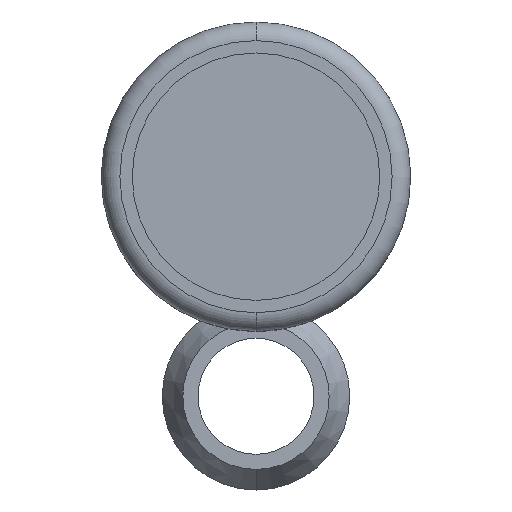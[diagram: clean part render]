
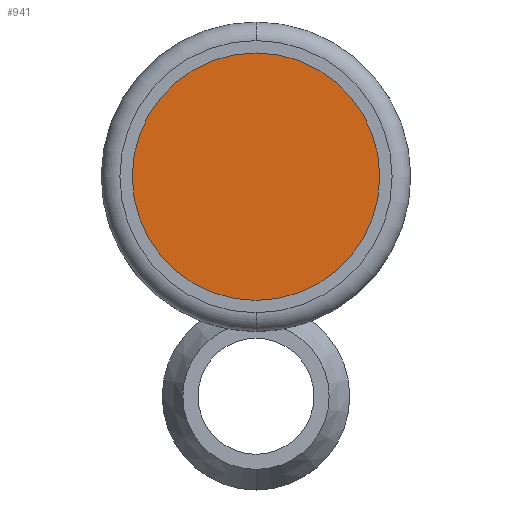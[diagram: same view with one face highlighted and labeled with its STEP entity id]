
A CAD part, front view. The second image highlights one B-rep face of the part: STEP entity #941.
In plain terms, the highlighted planar face has unit normal (0, -1, 0).
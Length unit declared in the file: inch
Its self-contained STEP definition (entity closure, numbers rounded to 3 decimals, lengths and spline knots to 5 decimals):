
#99 = DIRECTION ( 'NONE',  ( 0., 0., -1. ) ) ;
#100 = ORIENTED_EDGE ( 'NONE', *, *, #1079, .T. ) ;
#248 = VERTEX_POINT ( 'NONE', #1250 ) ;
#286 = EDGE_LOOP ( 'NONE', ( #1221, #100 ) ) ;
#344 = DIRECTION ( 'NONE',  ( 0., -1., 0. ) ) ;
#390 = AXIS2_PLACEMENT_3D ( 'NONE', #546, #1466, #1462 ) ;
#409 = PLANE ( 'NONE',  #390 ) ;
#546 = CARTESIAN_POINT ( 'NONE',  ( 0., -0.525, 0. ) ) ;
#558 = AXIS2_PLACEMENT_3D ( 'NONE', #1367, #344, #902 ) ;
#580 = FACE_OUTER_BOUND ( 'NONE', #286, .T. ) ;
#662 = AXIS2_PLACEMENT_3D ( 'NONE', #1461, #1354, #99 ) ;
#673 = CARTESIAN_POINT ( 'NONE',  ( 0., -0.525, 0.4 ) ) ;
#802 = EDGE_CURVE ( 'NONE', #804, #248, #1388, .T. ) ;
#804 = VERTEX_POINT ( 'NONE', #673 ) ;
#902 = DIRECTION ( 'NONE',  ( 0., 0., -1. ) ) ;
#941 = ADVANCED_FACE ( 'NONE', ( #580 ), #409, .T. ) ;
#1079 = EDGE_CURVE ( 'NONE', #248, #804, #1225, .T. ) ;
#1221 = ORIENTED_EDGE ( 'NONE', *, *, #802, .T. ) ;
#1225 = CIRCLE ( 'NONE', #558, 0.4 ) ;
#1250 = CARTESIAN_POINT ( 'NONE',  ( 0., -0.525, -0.4 ) ) ;
#1354 = DIRECTION ( 'NONE',  ( 0., -1., 0. ) ) ;
#1367 = CARTESIAN_POINT ( 'NONE',  ( 0., -0.525, 0. ) ) ;
#1388 = CIRCLE ( 'NONE', #662, 0.4 ) ;
#1461 = CARTESIAN_POINT ( 'NONE',  ( 0., -0.525, 0. ) ) ;
#1462 = DIRECTION ( 'NONE',  ( 0., 0., -1. ) ) ;
#1466 = DIRECTION ( 'NONE',  ( 0., -1., 0. ) ) ;
